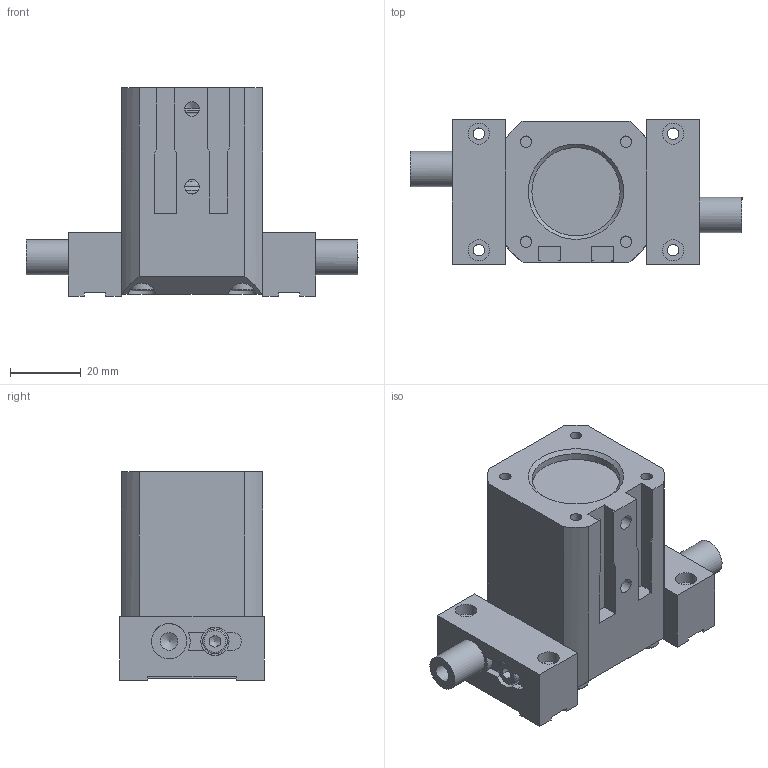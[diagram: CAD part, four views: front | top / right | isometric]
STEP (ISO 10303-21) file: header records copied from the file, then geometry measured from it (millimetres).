
FILE_DESCRIPTION((''),'2;1');
FILE_NAME('T:\CAD\Standard\Daten\3D-Datenbank\GP\GP050\step-Daten\G-GP050-l2-GS+UB closed.stp','2012-12-07T08:50:32',('dirk'),(''),'Autodesk Inventor 2011','Autodesk Inventor 2011','');
FILE_SCHEMA(('AUTOMOTIVE_DESIGN { 1 0 10303 214 1 1 1 1 }'));
Length unit declared in the file: millimetre
Products named in the file (3): Baugruppe1; G-GP050-l2-GÖ-Gehäuse-Feder; G-GP050-l2-GS-Bolzen2
Assembly tree (3 placements, depth 2):
  Baugruppe1
    G-GP050-l2-GÖ-Gehäuse-Feder
    G-GP050-l2-GS-Bolzen2  x2
Bounding box: 94 x 41 x 59 mm (x, y, z)
Volume: 96158.5 mm3; surface area: 45484.4 mm2
Topology: 3 solids, 21 shells, 405 faces, 994 edges, 647 vertices
Faces by surface type: plane 229, cylinder 115, cone 34, torus 26, bspline 1
Full cylindrical faces by diameter (mm): 2.459 x2, 3.242 x10, 4 x6, 4.134 x2, 4.3 x4, 4.5 x2, 4.917 x1, 5 x2, 6 x5, 6.4 x1, 7 x6, 8 x8, 10 x8, 12 x8, 14 x1, 15 x2, 17 x2, 20 x1, 23 x2, 23.6 x2, 25 x1, 27 x1, 27.1 x2, 30 x5
Entity records: 10374 total; most frequent: CARTESIAN_POINT 3001, DIRECTION 1452, ORIENTED_EDGE 1218, EDGE_CURVE 609, AXIS2_PLACEMENT_3D 582, EDGE_LOOP 529, VERTEX_POINT 454, STYLED_ITEM 332
